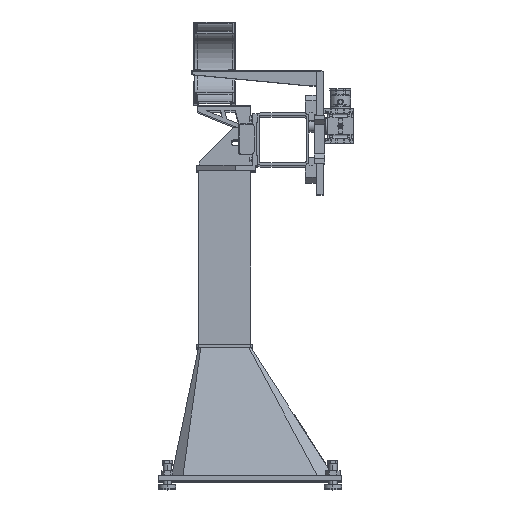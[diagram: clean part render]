
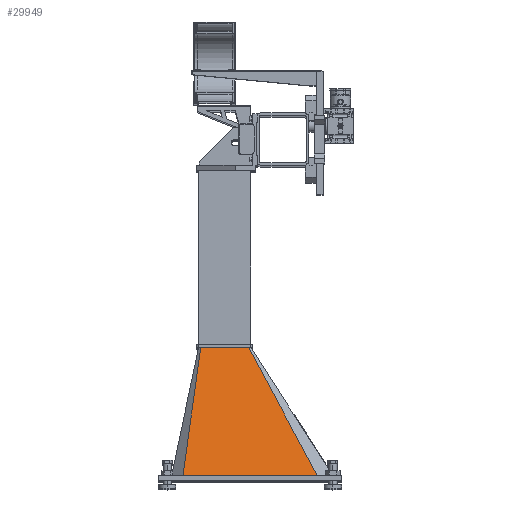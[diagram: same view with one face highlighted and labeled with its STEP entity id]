
A CAD part, top view. The second image highlights one B-rep face of the part: STEP entity #29949.
In plain terms, the highlighted planar face has unit normal (0, 0.233, 0.972).
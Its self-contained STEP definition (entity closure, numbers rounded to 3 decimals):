
#3832 = VERTEX_POINT ( 'NONE', #36196 ) ;
#3851 = EDGE_CURVE ( 'NONE', #40018, #19997, #19300, .T. ) ;
#4667 = CARTESIAN_POINT ( 'NONE',  ( 0., 77.753, 324.34 ) ) ;
#4861 = PLANE ( 'NONE',  #45713 ) ;
#6571 = ORIENTED_EDGE ( 'NONE', *, *, #3851, .T. ) ;
#7423 = VECTOR ( 'NONE', #36580, 1000. ) ;
#9344 = DIRECTION ( 'NONE',  ( 0., 0.233, 0.972 ) ) ;
#10334 = VECTOR ( 'NONE', #12022, 1000. ) ;
#11493 = CARTESIAN_POINT ( 'NONE',  ( 530., 75., 325. ) ) ;
#11679 = CARTESIAN_POINT ( 'NONE',  ( -137.5, 805., 150. ) ) ;
#12022 = DIRECTION ( 'NONE',  ( 0.463, -0.862, 0.207 ) ) ;
#15323 = EDGE_LOOP ( 'NONE', ( #6571, #38632, #48653, #24948 ) ) ;
#16508 = CARTESIAN_POINT ( 'NONE',  ( 137.5, 805., 150. ) ) ;
#16677 = VECTOR ( 'NONE', #42776, 1000. ) ;
#16822 = CARTESIAN_POINT ( 'NONE',  ( -137.5, 805., 150. ) ) ;
#19068 = VECTOR ( 'NONE', #36543, 1000. ) ;
#19300 = LINE ( 'NONE', #32127, #7423 ) ;
#19997 = VERTEX_POINT ( 'NONE', #23945 ) ;
#23945 = CARTESIAN_POINT ( 'NONE',  ( -240., 75., 325. ) ) ;
#24130 = EDGE_CURVE ( 'NONE', #19997, #42072, #29480, .T. ) ;
#24948 = ORIENTED_EDGE ( 'NONE', *, *, #46537, .T. ) ;
#28503 = LINE ( 'NONE', #11679, #16677 ) ;
#29480 = LINE ( 'NONE', #32083, #19068 ) ;
#29949 = ADVANCED_FACE ( 'NONE', ( #30069 ), #4861, .T. ) ;
#30069 = FACE_OUTER_BOUND ( 'NONE', #15323, .T. ) ;
#32083 = CARTESIAN_POINT ( 'NONE',  ( 530., 75., 325. ) ) ;
#32127 = CARTESIAN_POINT ( 'NONE',  ( -137.5, 805., 150. ) ) ;
#33147 = EDGE_CURVE ( 'NONE', #3832, #42072, #45800, .T. ) ;
#36196 = CARTESIAN_POINT ( 'NONE',  ( 137.5, 805., 150. ) ) ;
#36543 = DIRECTION ( 'NONE',  ( 1., 0., 0. ) ) ;
#36580 = DIRECTION ( 'NONE',  ( -0.135, -0.964, 0.231 ) ) ;
#38632 = ORIENTED_EDGE ( 'NONE', *, *, #24130, .T. ) ;
#40018 = VERTEX_POINT ( 'NONE', #16822 ) ;
#40455 = DIRECTION ( 'NONE',  ( 0., -0.972, 0.233 ) ) ;
#42072 = VERTEX_POINT ( 'NONE', #11493 ) ;
#42776 = DIRECTION ( 'NONE',  ( -1., 0., 0. ) ) ;
#45713 = AXIS2_PLACEMENT_3D ( 'NONE', #4667, #9344, #40455 ) ;
#45800 = LINE ( 'NONE', #16508, #10334 ) ;
#46537 = EDGE_CURVE ( 'NONE', #3832, #40018, #28503, .T. ) ;
#48653 = ORIENTED_EDGE ( 'NONE', *, *, #33147, .F. ) ;
